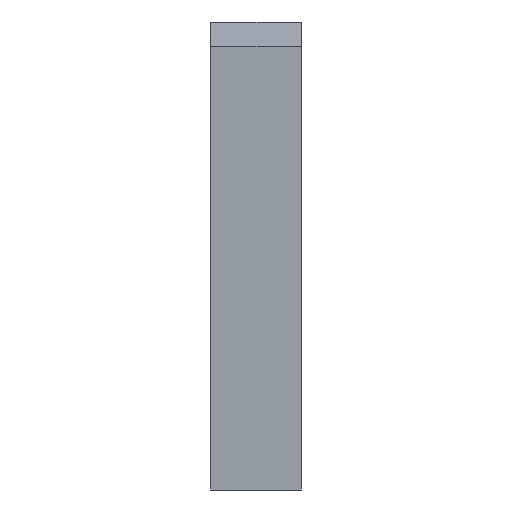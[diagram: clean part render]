
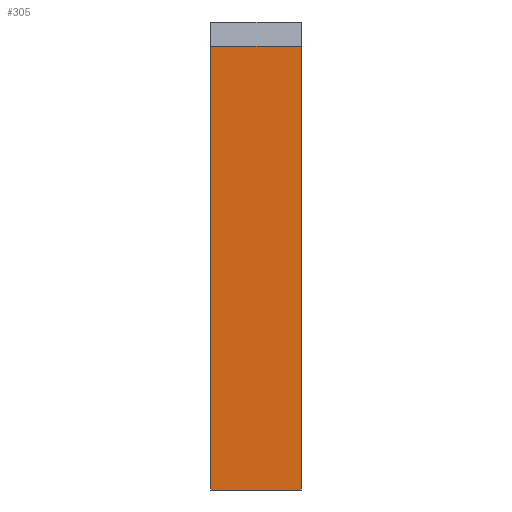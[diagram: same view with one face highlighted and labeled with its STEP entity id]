
A CAD part, left-side view. The second image highlights one B-rep face of the part: STEP entity #305.
In plain terms, the highlighted planar face has unit normal (-1, 0, 0).
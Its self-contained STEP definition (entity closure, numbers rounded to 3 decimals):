
#17=FACE_OUTER_BOUND('',#33,.T.);
#33=EDGE_LOOP('',(#205,#206,#207,#208));
#51=LINE('',#431,#93);
#52=LINE('',#433,#94);
#53=LINE('',#435,#95);
#54=LINE('',#436,#96);
#93=VECTOR('',#355,1.);
#94=VECTOR('',#356,1.);
#95=VECTOR('',#357,1.);
#96=VECTOR('',#358,1.);
#135=VERTEX_POINT('',#429);
#136=VERTEX_POINT('',#430);
#137=VERTEX_POINT('',#432);
#138=VERTEX_POINT('',#434);
#163=EDGE_CURVE('',#135,#136,#51,.T.);
#164=EDGE_CURVE('',#136,#137,#52,.T.);
#165=EDGE_CURVE('',#137,#138,#53,.T.);
#166=EDGE_CURVE('',#135,#138,#54,.T.);
#205=ORIENTED_EDGE('',*,*,#163,.T.);
#206=ORIENTED_EDGE('',*,*,#164,.T.);
#207=ORIENTED_EDGE('',*,*,#165,.T.);
#208=ORIENTED_EDGE('',*,*,#166,.F.);
#289=PLANE('',#335);
#305=ADVANCED_FACE('',(#17),#289,.F.);
#335=AXIS2_PLACEMENT_3D('',#428,#353,#354);
#353=DIRECTION('center_axis',(1.,0.,0.));
#354=DIRECTION('ref_axis',(0.,0.,1.));
#355=DIRECTION('',(0.,0.,1.));
#356=DIRECTION('',(0.,1.,0.));
#357=DIRECTION('',(0.,0.,-1.));
#358=DIRECTION('',(0.,1.,0.));
#428=CARTESIAN_POINT('Origin',(83.1,63.5,140.3));
#429=CARTESIAN_POINT('',(83.1,63.5,140.3));
#430=CARTESIAN_POINT('',(83.1,63.5,155.));
#431=CARTESIAN_POINT('',(83.1,63.5,140.3));
#432=CARTESIAN_POINT('',(83.1,66.5,155.));
#433=CARTESIAN_POINT('',(83.1,63.5,155.));
#434=CARTESIAN_POINT('',(83.1,66.5,140.3));
#435=CARTESIAN_POINT('',(83.1,66.5,155.));
#436=CARTESIAN_POINT('',(83.1,63.5,140.3));
